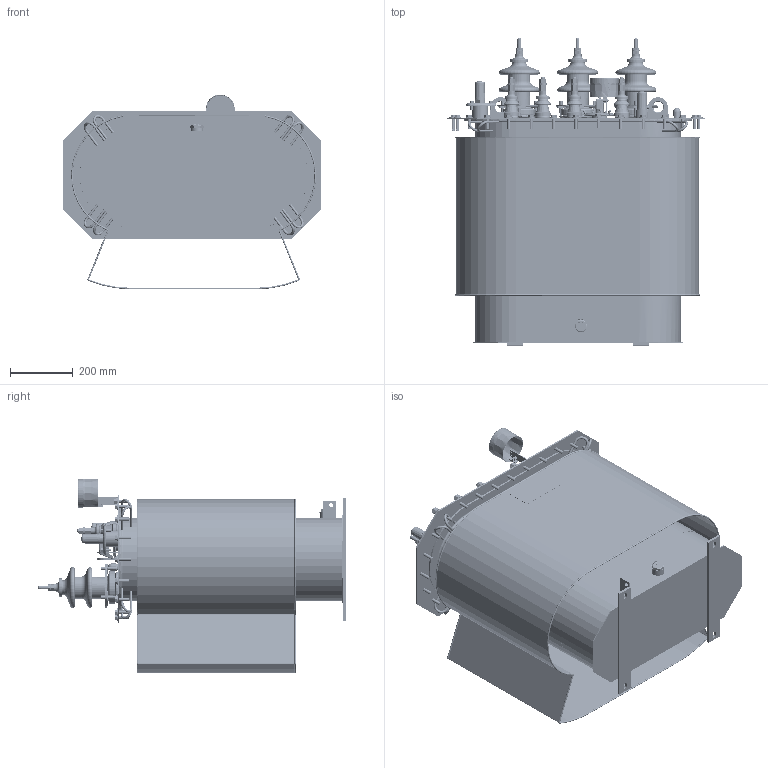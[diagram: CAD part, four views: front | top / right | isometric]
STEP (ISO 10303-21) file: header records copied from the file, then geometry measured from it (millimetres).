
FILE_DESCRIPTION(/* description */ (''),/* implementation_level */ '2;1');
FILE_NAME(/* name */ 'D:\SEARCHWORK\Готовые\\X2\0413043E0442043E0432044B0435\X0\ ТМГ\ТМГ-40-15\ТМГ-40-15.stp',/* time_stamp */ '2021-06-14T13:53:30+03:00',/* author */ ('55505'),/* organization */ (''),/* preprocessor_version */ 'ST-DEVELOPER v15.2',/* originating_system */ 'Autodesk Inventor 2014',/* authorisation */ '');
FILE_SCHEMA (('AUTOMOTIVE_DESIGN { 1 0 10303 214 3 1 1 }'));
Products named in the file (1): ТМГ-40-15
Bounding box: 820 x 974.81 x 618.19 mm (x, y, z)
Volume: 3552641.2 mm3; surface area: 5776018.4 mm2
Topology: 55 solids, 83 shells, 7237 faces, 17316 edges, 10268 vertices
Faces by surface type: plane 2500, cylinder 1693, bspline 1619, torus 852, cone 296, sphere 277
Full cylindrical faces by diameter (mm): 1.6 x2, 2 x2, 2.5 x6, 3 x3, 3.1 x2, 3.8 x4, 4 x5, 4.134 x2, 4.2 x2, 4.42 x3, 4.917 x2, 4.95 x2, 5 x11, 5.94 x6, 6 x14, 6.2 x4, 6.5 x1, 7 x2, 7.1 x2, 7.159 x1, 7.5 x2, 7.92 x3, 8 x19, 8.4 x1, 8.5 x3, 8.746 x9, 9 x3, 9.6 x1, 9.9 x28, 10 x69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
Entity records: 249849 total; most frequent: CARTESIAN_POINT 93487, ORIENTED_EDGE 31212, DIRECTION 28097, EDGE_CURVE 15564, AXIS2_PLACEMENT_3D 11175, VERTEX_POINT 9954, EDGE_LOOP 8982, ADVANCED_FACE 7237
